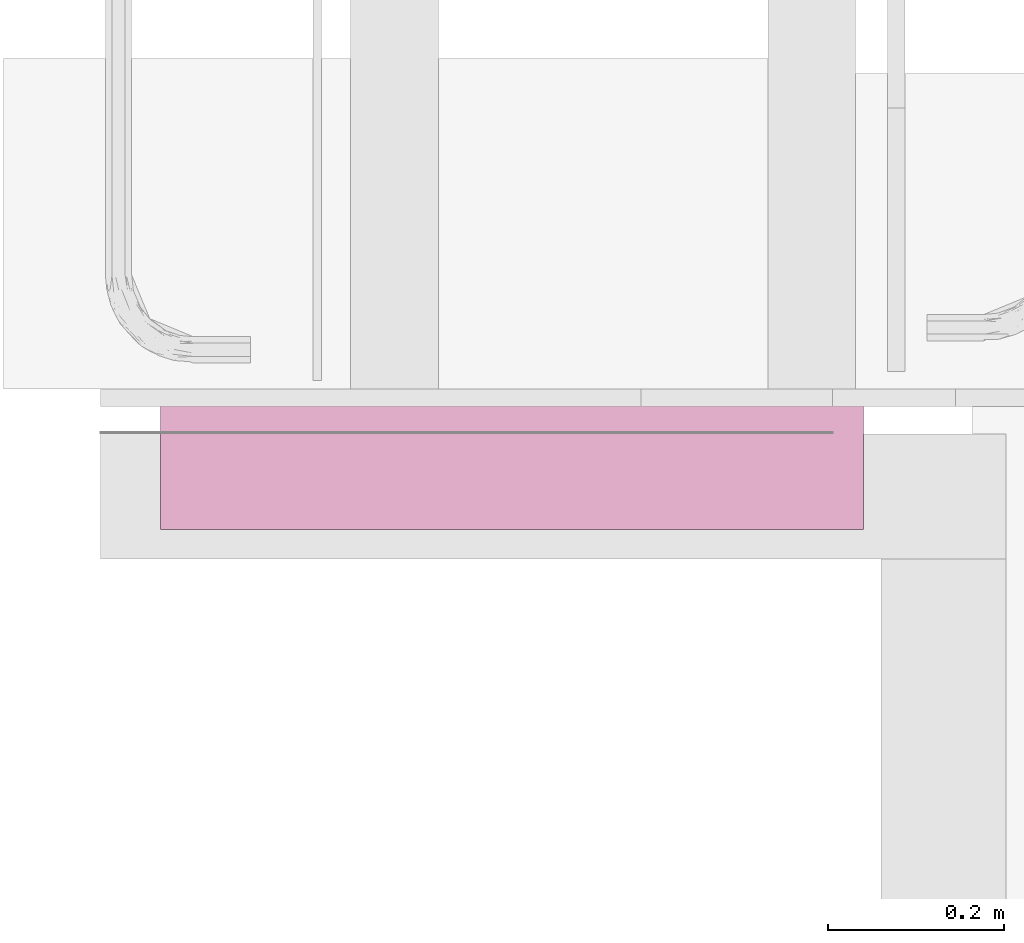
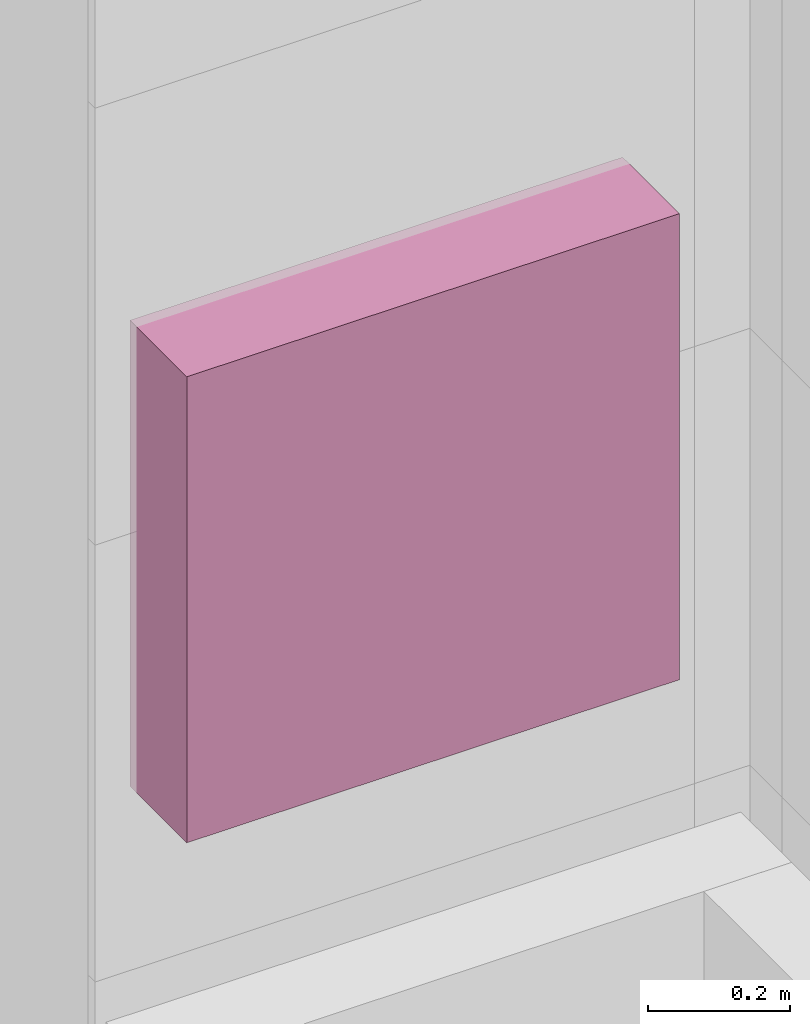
# One storey, part 17 of 18: 1 furnishing.
"""IFC2X3 building model written with IfcOpenShell, lengths in millimetres."""

from ifc_helpers import new_model, entity, si_unit, converted_unit, derived_unit, direction, frame, origin, origin_with_axes, origin_2d_with_axis, place, context, subcontext, project, spatial, rectangle, extrude, source, transform, mapped, material, type_object, element, save


model = new_model("IFC2X3")

# Units and contexts
model_context = context("Model", 3, precision=0.01, world=frame((0.0, 4.29681676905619e-09, 0.0)), true_north=direction((4.01073788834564e-13, 1.0)))
plan_context = context("Plan", 3, precision=0.01, world=frame((0.0, 4.29681676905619e-09, 0.0)), true_north=direction((4.01073788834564e-13, 1.0)))
body_context = subcontext(model_context, "Body", "Model", "MODEL_VIEW")
ifc_project = project(units=[converted_unit("PLANEANGLEUNIT", "DEGREE", entity("IfcPositiveLengthMeasure", 0.0174532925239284), si_unit("PLANEANGLEUNIT", "RADIAN"), dimensions=[0, 0, 0, 0, 0, 0, 0]), si_unit("AREAUNIT", "SQUARE_METRE"), si_unit("LENGTHUNIT", "METRE", prefix="MILLI"), si_unit("MASSUNIT", "GRAM", prefix="KILO"), si_unit("POWERUNIT", "WATT"), si_unit("PRESSUREUNIT", "PASCAL"), si_unit("FORCEUNIT", "NEWTON", prefix="KILO"), si_unit("ELECTRICVOLTAGEUNIT", "VOLT"), si_unit("ELECTRICCURRENTUNIT", "AMPERE"), si_unit("THERMODYNAMICTEMPERATUREUNIT", "DEGREE_CELSIUS"), si_unit("TIMEUNIT", "SECOND"), si_unit("VOLUMEUNIT", "CUBIC_METRE"), derived_unit("LINEARVELOCITYUNIT", [(si_unit("LENGTHUNIT", "METRE"), 1), (si_unit("TIMEUNIT", "SECOND"), -1)]), derived_unit("VOLUMETRICFLOWRATEUNIT", [(si_unit("VOLUMEUNIT", "CUBIC_METRE"), 1), (si_unit("TIMEUNIT", "SECOND"), -1)]), derived_unit("THERMALTRANSMITTANCEUNIT", [(si_unit("POWERUNIT", "WATT"), 1), (si_unit("THERMODYNAMICTEMPERATUREUNIT", "KELVIN"), -1), (si_unit("AREAUNIT", "SQUARE_METRE"), -1)]), derived_unit("SOUNDPRESSUREUNIT", [(si_unit("PRESSUREUNIT", "PASCAL"), 1)])], contexts=[model_context, plan_context])

# Site, building, storey
site_placement = place(None, origin_with_axes())
site = spatial("IfcSite", under=ifc_project, at=site_placement, Name="ENGM", CompositionType="ELEMENT")
building_placement = place(site_placement, origin_with_axes())
building = spatial("IfcBuilding", under=site, at=building_placement, Name="TH", CompositionType="ELEMENT")
storey_placement = place(building_placement, frame((0.0, 0.0, 210200.0), z_axis=(0.0, 0.0, 1.0), x_axis=(1.0, 0.0, 0.0)))
storey = spatial("IfcBuildingStorey", under=building, at=storey_placement, Name="Nivå F - 0,7 m", CompositionType="ELEMENT", Elevation=210200.0)

# Furnishing
ifc_material = material(Name="<Unnamed>")
furniture_type = type_object("IfcFurnitureType", Name="V278 - brannskap1:V278 - Brannskap - 800 x 800 x 160 mm", AssemblyPlace="NOTDEFINED", material=ifc_material)
shared_shape = source(origin(), body_context, "Body", "SweptSolid", [
    extrude(rectangle(XDim=800.0, YDim=160.0, at=origin_2d_with_axis()), frame((331.516491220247, -56.0075428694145, 0.0), z_axis=(0.0, 0.0, 1.0), x_axis=(-1.0, 0.0, 0.0)), (0.0, 0.0, 1.0), 800.0),
])
furnishing_placement = place(storey_placement, frame((895911.516491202, 480328.992457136, 1050.0), z_axis=(0.0, 0.0, 1.0), x_axis=(-1.0, 0.0, 0.0)))
element("IfcFurnishingElement", 1, at=furnishing_placement, inside=storey, type_object=furniture_type, material=ifc_material, Name="V278 - brannskap1:V278 - Brannskap - 800 x 800 x 160 mm", ObjectType="V278 - brannskap1:V278 - Brannskap - 800 x 800 x 160 mm", context=body_context, shape_type="MappedRepresentation", body=[
    mapped(shared_shape, transform((0.0, 0.0, 0.0), scale=1.0)),
])

save(model, "model.ifc")
